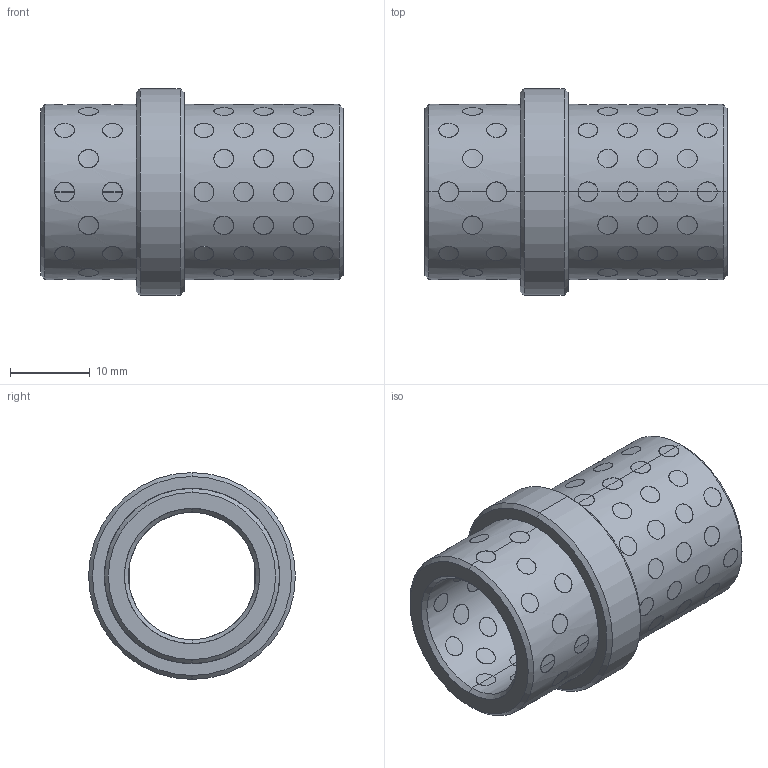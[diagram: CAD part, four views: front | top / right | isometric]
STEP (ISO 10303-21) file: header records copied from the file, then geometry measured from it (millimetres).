
FILE_DESCRIPTION(('CATIA V5 STEP Exchange'),'2;1');
FILE_NAME('C:\Users\Utente\Desktop\3D files G402\G4021626.stp','2020-04-22T08:42:25+00:00',('none'),('none'),'CATIA Version 5 Release 20 GA (IN-10)','CATIA V5 STEP AP203','none');
FILE_SCHEMA(('CONFIG_CONTROL_DESIGN'));
Products named in the file (1): G4021626
Bounding box: 38 x 26 x 26 mm (x, y, z)
Surface area: 8919 mm2 (no closed solid volume)
Topology: 0 solids, 528 shells, 528 faces, 2304 edges, 2304 vertices
Faces by surface type: cylinder 512, revolution 12, plane 4
Entity records: 40693 total; most frequent: CARTESIAN_POINT 24752, ORIENTED_EDGE 2304, EDGE_CURVE 2304, VERTEX_POINT 2304, DIRECTION 1867, B_SPLINE_CURVE_WITH_KNOTS 1493, VECTOR 776, LINE 776
